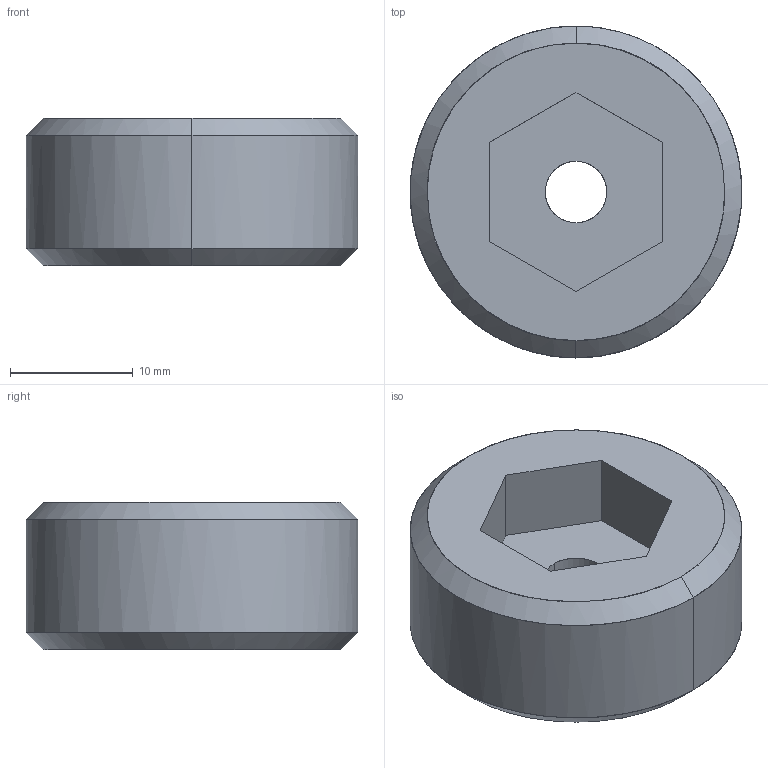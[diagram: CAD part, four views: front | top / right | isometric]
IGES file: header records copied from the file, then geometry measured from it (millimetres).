
Global section: file name: E:\UnigraphicsGraphicData\MISUMI_PRESS-PARTS\IGES\3d_mswh27_00465_r00.igs; native system: NX V5.0; preprocessor: UGS NX IGES V5.0; author: MISUMI; date: 20110105.161524; units: millimetre
Bounding box: 26.97 x 27 x 12 mm (x, y, z)
Surface area: 2367.6 mm2 (no closed solid volume)
Topology: 0 solids, 0 shells, 17 faces, 100 edges, 100 vertices
Faces by surface type: bspline 17
